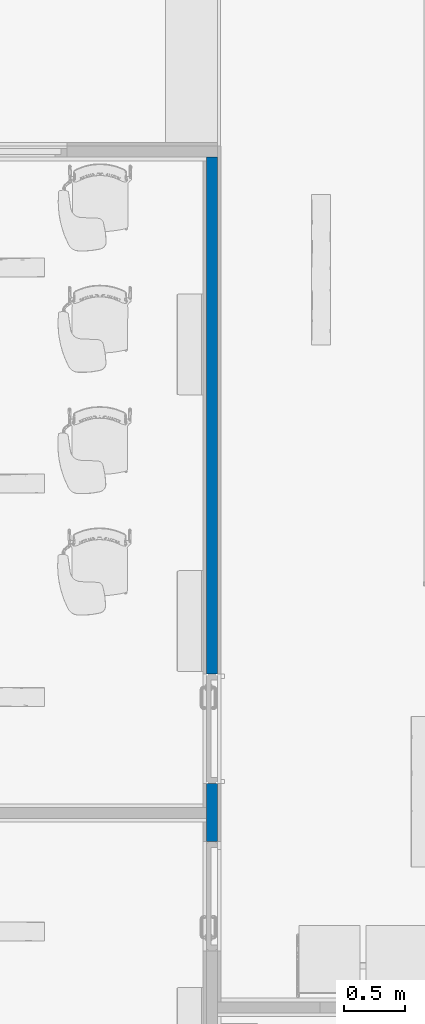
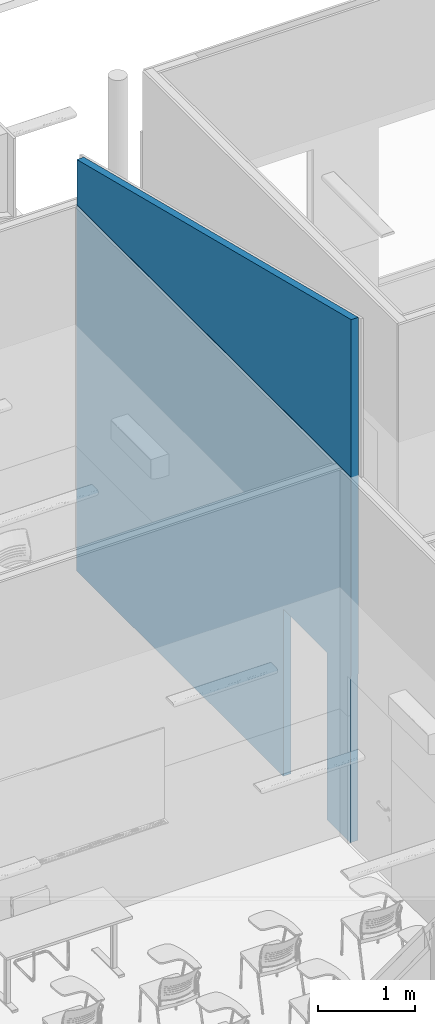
# One storey, part 15 of 155: 1 wall, 2 openings.
"""IFC2X3 building model written with IfcOpenShell, lengths in metres."""

from ifc_helpers import new_model, entity, si_unit, converted_unit, derived_unit, direction, frame, frame_2d, origin, place, context, subcontext, project, spatial, polyline, rectangle, extrude, clip, bounded_halfspace, material, layer, layer_set, layer_usage, type_object, element, save


model = new_model("IFC2X3")

# Units and contexts
model_context = context("Model", 3, precision=1e-05, world=origin(), true_north=direction((6.12303176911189e-17, 1.0)))
body_context = subcontext(model_context, "Body", "Model", "MODEL_VIEW")
ifc_project = project(units=[si_unit("LENGTHUNIT", "METRE"), si_unit("AREAUNIT", "SQUARE_METRE"), si_unit("VOLUMEUNIT", "CUBIC_METRE"), converted_unit("PLANEANGLEUNIT", "DEGREE", entity("IfcRatioMeasure", 0.0174532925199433), si_unit("PLANEANGLEUNIT", "RADIAN"), dimensions=[0, 0, 0, 0, 0, 0, 0]), si_unit("MASSUNIT", "GRAM", prefix="KILO"), derived_unit("MASSDENSITYUNIT", [(si_unit("MASSUNIT", "GRAM", prefix="KILO"), 1), (si_unit("LENGTHUNIT", "METRE"), -3)]), si_unit("TIMEUNIT", "SECOND"), si_unit("FREQUENCYUNIT", "HERTZ"), si_unit("THERMODYNAMICTEMPERATUREUNIT", "DEGREE_CELSIUS"), derived_unit("THERMALTRANSMITTANCEUNIT", [(si_unit("MASSUNIT", "GRAM", prefix="KILO"), 1), (si_unit("THERMODYNAMICTEMPERATUREUNIT", "KELVIN"), -1), (si_unit("TIMEUNIT", "SECOND"), -3)]), derived_unit("VOLUMETRICFLOWRATEUNIT", [(si_unit("LENGTHUNIT", "METRE"), 3), (si_unit("TIMEUNIT", "SECOND"), -1)]), si_unit("ELECTRICCURRENTUNIT", "AMPERE"), si_unit("ELECTRICVOLTAGEUNIT", "VOLT"), si_unit("POWERUNIT", "WATT"), si_unit("FORCEUNIT", "NEWTON", prefix="KILO"), si_unit("ILLUMINANCEUNIT", "LUX"), si_unit("LUMINOUSFLUXUNIT", "LUMEN"), si_unit("LUMINOUSINTENSITYUNIT", "CANDELA"), derived_unit("USERDEFINED", [(si_unit("MASSUNIT", "GRAM", prefix="KILO"), -1), (si_unit("LENGTHUNIT", "METRE"), -2), (si_unit("TIMEUNIT", "SECOND"), 3), (si_unit("LUMINOUSFLUXUNIT", "LUMEN"), 1)]), derived_unit("LINEARVELOCITYUNIT", [(si_unit("LENGTHUNIT", "METRE"), 1), (si_unit("TIMEUNIT", "SECOND"), -1)]), si_unit("PRESSUREUNIT", "PASCAL"), derived_unit("USERDEFINED", [(si_unit("LENGTHUNIT", "METRE"), -2), (si_unit("MASSUNIT", "GRAM", prefix="KILO"), 1), (si_unit("TIMEUNIT", "SECOND"), -2)])], contexts=[model_context])

# Site, building, storey
site_placement = place(None, frame((26.9889013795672, -17.5624287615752, 0.0)))
site = spatial("IfcSite", under=ifc_project, at=site_placement, Name="Default", CompositionType="ELEMENT")
building_placement = place(site_placement, origin())
building = spatial("IfcBuilding", under=site, at=building_placement, Name="C. C. L. Monsenhor Antônio Sampaio", CompositionType="ELEMENT")
storey_placement = place(building_placement, frame((0.0, 0.0, 1.19999999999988)))
storey = spatial("IfcBuildingStorey", under=building, at=storey_placement, Name="Nível 1.2", CompositionType="ELEMENT", Elevation=1.19999999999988)

# Wall, openings
ifc_material = material(Name="ALVENARIA")
ifc_layer = layer(ifc_material, 0.09)
ifc_layer_set = layer_set([ifc_layer], Name="Parede básica:ENucleo parede 15cm")
ifc_layer_usage = layer_usage(ifc_layer_set, "AXIS2", "NEGATIVE", 0.045)
wall_type = type_object("IfcWallType", Name="Parede básica:ENucleo parede 15cm", PredefinedType="STANDARD", material=ifc_layer_set)
wall_placement = place(storey_placement, frame((-6.21555229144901, -28.423066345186, 0.0), z_axis=(0.0, 0.0, 1.0), x_axis=(0.0, -1.0, 0.0)))
wall = element("IfcWallStandardCase", 1, at=wall_placement, inside=storey, type_object=wall_type, material=ifc_layer_usage, Name="Parede básica:ENucleo parede 15cm", ObjectType="Parede básica:ENucleo parede 15cm", context=body_context, shape_type="Clipping", body=[
    clip(clip(extrude(rectangle(XDim=5.65000000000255, YDim=0.089999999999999, at=frame_2d((2.82500000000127, 1.66533453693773e-16), x_axis=(-1.0, 0.0))), origin(), (0.0, 0.0, 1.0), 6.58000000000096), bounded_halfspace(frame((5.65000000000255, -0.0399999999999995, 6.58000000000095), z_axis=(-0.242535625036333, 0.0, 0.970142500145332), x_axis=(0.0, -1.0, 0.0)), False, frame((5.65000000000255, -0.0399999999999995, 6.58000000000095)), polyline([(0.0, 0.0), (0.0, 0.0849999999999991), (-5.65000000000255, 0.0849999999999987), (-5.65000000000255, 0.0), (0.0, 0.0)]))), bounded_halfspace(frame((0.0, -0.0450000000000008, 4.60000000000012), z_axis=(0.0, 0.0, 1.0), x_axis=(0.0, 1.0, 0.0)), False, frame((0.0, -0.0450000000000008, 4.60000000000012)), polyline([(0.0, 0.0), (0.0300000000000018, 0.0), (5.33000000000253, 0.0), (5.36000000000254, 0.0), (5.45000000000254, 0.0), (5.47999999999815, 0.0), (5.65000000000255, 0.0), (5.65000000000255, 0.00500000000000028), (0.0, 0.00499999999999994), (0.0, 0.0)]))),
])
opening_1_placement = place(wall_placement, origin())
element("IfcOpeningElement", 2, at=opening_1_placement, cuts=wall, Name="Parede básica:ENucleo parede 15cm", ObjectType="Opening", context=body_context, shape_type="SweptSolid", body=[
    extrude(rectangle(XDim=2.09999999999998, YDim=0.899999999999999, at=frame_2d((-3.33066907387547e-16, 2.16493489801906e-15), x_axis=(1.0, 0.0))), frame((6.08999999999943, -1.569, 1.04999999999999), z_axis=(0.0, 1.0, 0.0), x_axis=(0.0, 0.0, 1.0)), (0.0, 0.0, 1.0), 3.048),
])
opening_2_placement = place(wall_placement, frame((5.16000000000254, 0.0449999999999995, 0.0)))
element("IfcOpeningElement", 3, at=opening_2_placement, cuts=wall, Name="Porta levantamento:90 x 211 AZUL:1", ObjectType="Opening", context=body_context, shape_type="SweptSolid", body=[
    extrude(rectangle(XDim=2.09999999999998, YDim=0.9, at=frame_2d((1.04999999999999, 0.450000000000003), x_axis=(1.0, 0.0))), frame((0.0, 0.0, 0.0), z_axis=(0.0, -1.0, 0.0), x_axis=(0.0, 0.0, 1.0)), (0.0, 0.0, 1.0), 0.09),
])

save(model, "model.ifc")
